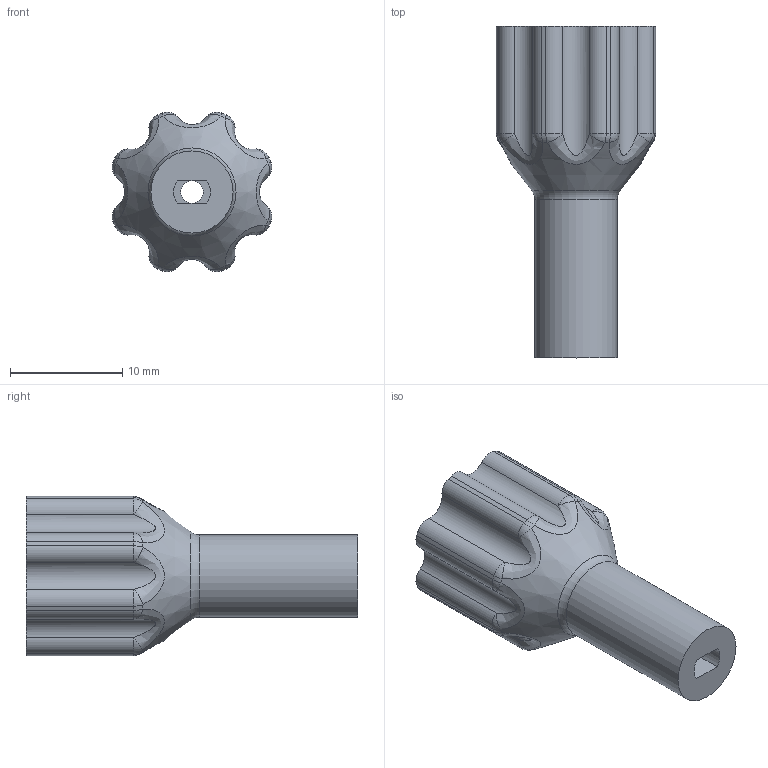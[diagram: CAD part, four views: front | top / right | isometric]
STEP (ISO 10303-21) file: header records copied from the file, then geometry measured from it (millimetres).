
FILE_DESCRIPTION(/* description */ (''),/* implementation_level */ '2;1');
FILE_NAME(/* name */ '3412444B30.step',/* time_stamp */ '2026-06-04T16:11:11-07:00',/* author */ (''),/* organization */ (''),/* preprocessor_version */ 'ST-DEVELOPER v20.1',/* originating_system */ 'Autodesk Translation Framework v15.8.0.0',/* authorisation */ '');
FILE_SCHEMA (('AUTOMOTIVE_DESIGN { 1 0 10303 214 3 1 1 }'));
Length unit declared in the file: millimetre
Products named in the file (1): 3412444B30
Bounding box: 14.18 x 29.5 x 14.18 mm (x, y, z)
Volume: 2061.1 mm3; surface area: 1633.7 mm2
Topology: 1 solids, 1 shells, 82 faces, 187 edges, 108 vertices
Faces by surface type: cylinder 38, sphere 16, torus 11, bspline 8, plane 7, cone 2
Full cylindrical faces by diameter (mm): 2 x1, 3.5 x1, 6 x1, 7.3 x1
Entity records: 2936 total; most frequent: CARTESIAN_POINT 1015, DIRECTION 442, ORIENTED_EDGE 374, AXIS2_PLACEMENT_3D 197, EDGE_CURVE 187, CIRCLE 122, VERTEX_POINT 108, EDGE_LOOP 85
